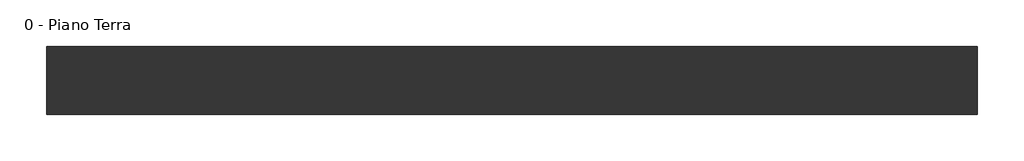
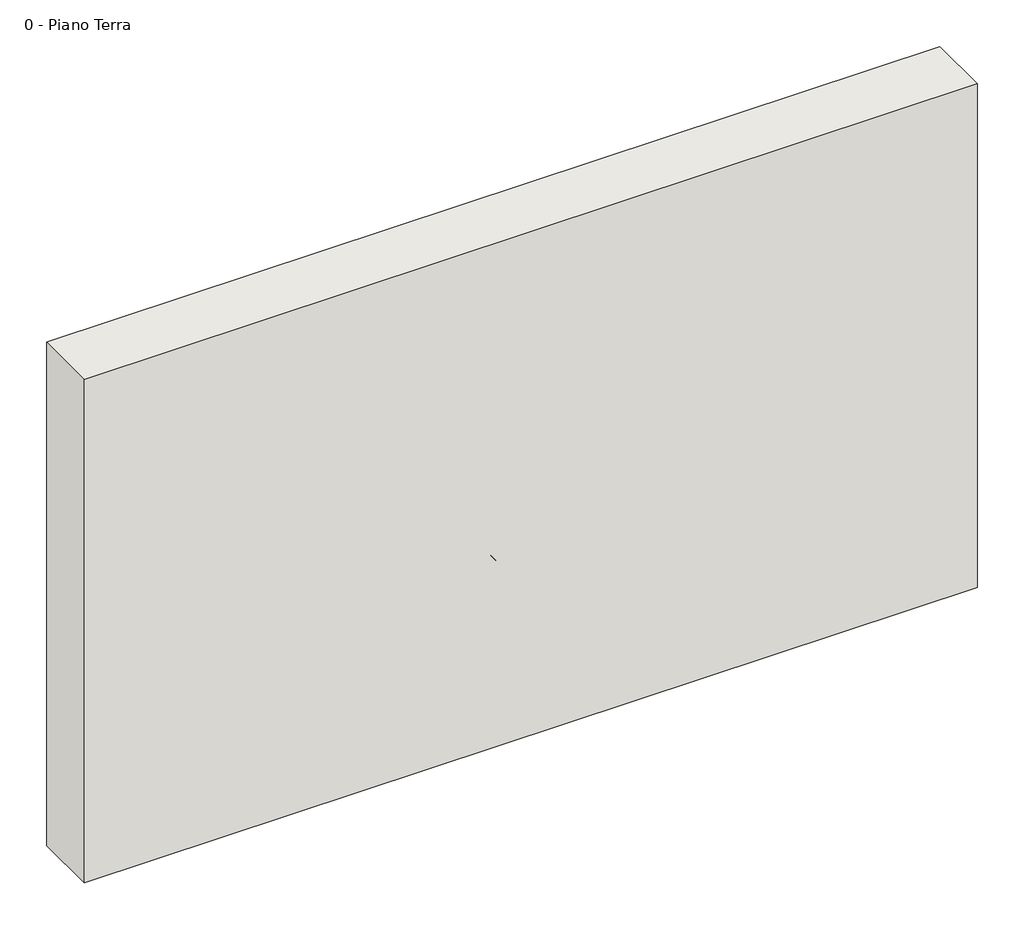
# One storey: 11 proxies, 1 wall.
"""IFC4 building model written with IfcOpenShell, lengths in millimetres."""

from ifc_helpers import new_model, si_unit, origin, origin_with_axes, place, context, project, spatial, polyline, outline, extrude, transform, mapped, element, save
from components import tap_tipo_1_469233f4, tip_tipo_1_c59b7fa3, tipo_1_560bc752, tipo_1_2ed1a620, tipo_1_5fd8f887, tipo_1_0b2f622d, tipo_1_40fdfaa1, tipo_1_f2337e46, tipo_1_4cdb7944, tipo_1_c14ef344, tipo_1_62a81992

model = new_model("IFC4")

# Units and contexts
model_context = context("Model", 3, world=origin())
ifc_project = project(units=[si_unit("LENGTHUNIT", "METRE", prefix="MILLI")], contexts=[model_context])

# Site, building, storey
site = spatial("IfcSite", under=ifc_project)
building = spatial("IfcBuilding", under=site)
storey = spatial("IfcBuildingStorey", under=building, Name="0 - Piano Terra", Elevation=0.0)

# Proxies
placement = place(None, origin())
tap_tipo_1_shape = tap_tipo_1_469233f4(model_context)
element("IfcBuildingElementProxy", 1, Name="TAP : Tipo 1", ObjectType="TAP : Tipo 1", at=placement, inside=storey, context=model_context, shape_type="MappedRepresentation", body=[
    mapped(tap_tipo_1_shape, transform((-11046.5929134, 273.322743, 430.9411082), x_axis=(1.0, 0.0, 0.0), y_axis=(0.0, 1.0, 0.0), z_axis=(0.0, 0.0, 1.0))),
])
tip_tipo_1_shape = tip_tipo_1_c59b7fa3(model_context)
element("IfcBuildingElementProxy", 2, Name="TIP : Tipo 1", ObjectType="TIP : Tipo 1", at=placement, inside=storey, context=model_context, shape_type="MappedRepresentation", body=[
    mapped(tip_tipo_1_shape, transform((-11038.5385658, 273.322743, 200.2970967), x_axis=(1.0, 0.0, 0.0), y_axis=(0.0, 1.0, 0.0), z_axis=(0.0, 0.0, 1.0))),
])
tipo_1_shape = tipo_1_560bc752(model_context)
element("IfcBuildingElementProxy", 3, Name="Zeus 504E : Tipo 1", ObjectType="Zeus 504E : Tipo 1", at=placement, inside=storey, context=model_context, shape_type="MappedRepresentation", body=[
    mapped(tipo_1_shape, transform((-10168.5385658, 273.322743, 214.3308926), x_axis=(1.0, 0.0, 0.0), y_axis=(0.0, 1.0, 0.0), z_axis=(0.0, 0.0, 1.0))),
])
tipo_1_2_shape = tipo_1_2ed1a620(model_context)
element("IfcBuildingElementProxy", 4, Name="Zeus 503E : Tipo 1", ObjectType="Zeus 503E : Tipo 1", at=placement, inside=storey, context=model_context, shape_type="MappedRepresentation", body=[
    mapped(tipo_1_2_shape, transform((-9828.5385658, 273.322743, 215.8270676), x_axis=(1.0, 0.0, 0.0), y_axis=(0.0, 1.0, 0.0), z_axis=(0.0, 0.0, 1.0))),
])
tipo_1_3_shape = tipo_1_5fd8f887(model_context)
element("IfcBuildingElementProxy", 5, Name="Zeus 503N : Tipo 1", ObjectType="Zeus 503N : Tipo 1", at=placement, inside=storey, context=model_context, shape_type="MappedRepresentation", body=[
    mapped(tipo_1_3_shape, transform((-9508.5385658, 273.322743, 216.39303), x_axis=(1.0, 0.0, 0.0), y_axis=(0.0, 1.0, 0.0), z_axis=(0.0, 0.0, 1.0))),
])
tipo_1_4_shape = tipo_1_0b2f622d(model_context)
element("IfcBuildingElementProxy", 6, Name="Ercole lineare orizzontale : Tipo 1", ObjectType="Ercole lineare orizzontale : Tipo 1", at=placement, inside=storey, context=model_context, shape_type="MappedRepresentation", body=[
    mapped(tipo_1_4_shape, transform((-13228.5385658, 273.322743, 270.2970967), x_axis=(1.0, 0.0, 0.0), y_axis=(0.0, 1.0, 0.0), z_axis=(0.0, 0.0, 1.0))),
])
tipo_1_5_shape = tipo_1_40fdfaa1(model_context)
element("IfcBuildingElementProxy", 7, Name="Ercole lineare verticale : Tipo 1", ObjectType="Ercole lineare verticale : Tipo 1", at=placement, inside=storey, context=model_context, shape_type="MappedRepresentation", body=[
    mapped(tipo_1_5_shape, transform((-12915.3191765, 273.322743, 270.2970967), x_axis=(1.0, 0.0, 0.0), y_axis=(0.0, 1.0, 0.0), z_axis=(0.0, 0.0, 1.0))),
])
tipo_1_6_shape = tipo_1_f2337e46(model_context)
element("IfcBuildingElementProxy", 8, Name="Ercole ANGOLAREorizzontale : Tipo 1", ObjectType="Ercole ANGOLAREorizzontale : Tipo 1", at=placement, inside=storey, context=model_context, shape_type="MappedRepresentation", body=[
    mapped(tipo_1_6_shape, transform((-12228.5385658, 273.322743, 270.2970967), x_axis=(1.0, 0.0, 0.0), y_axis=(0.0, 1.0, 0.0), z_axis=(0.0, 0.0, 1.0))),
])
tipo_1_7_shape = tipo_1_4cdb7944(model_context)
element("IfcBuildingElementProxy", 9, Name="Ercole ANGOLAREorizzontale : Tipo 1", ObjectType="Ercole ANGOLAREorizzontale : Tipo 1", at=placement, inside=storey, context=model_context, shape_type="MappedRepresentation", body=[
    mapped(tipo_1_7_shape, transform((-11303.6613233, 273.322743, 270.2970967), x_axis=(-1.0, 0.0, 0.0), y_axis=(0.0, -1.0, 0.0), z_axis=(0.0, 0.0, 1.0))),
])
tipo_1_8_shape = tipo_1_c14ef344(model_context)
element("IfcBuildingElementProxy", 10, Name="Ercole ANGOLARE verticale : Tipo 1", ObjectType="Ercole ANGOLARE verticale : Tipo 1", at=placement, inside=storey, context=model_context, shape_type="MappedRepresentation", body=[
    mapped(tipo_1_8_shape, transform((-11921.4209502, 273.322743, 270.2970967), x_axis=(1.0, 0.0, 0.0), y_axis=(0.0, 1.0, 0.0), z_axis=(0.0, 0.0, 1.0))),
])
tipo_1_9_shape = tipo_1_62a81992(model_context)
element("IfcBuildingElementProxy", 11, Name="Ercole ANGOLARE verticale rovescio : Tipo 1", ObjectType="Ercole ANGOLARE verticale rovescio : Tipo 1", at=placement, inside=storey, context=model_context, shape_type="MappedRepresentation", body=[
    mapped(tipo_1_9_shape, transform((-11921.4209502, 273.322743, 0.0), x_axis=(1.0, 0.0, 0.0), y_axis=(0.0, 1.0, 0.0), z_axis=(0.0, 0.0, 1.0))),
])

# Wall
element("IfcWall", 12, ObjectType="Tamponamento Esterno - 38 cm", at=placement, inside=storey, context=model_context, shape_type="SweptSolid", body=[
    extrude(outline(polyline([(-8103.5385658, 83.322743), (-13303.5385658, 83.322743), (-13303.5385658, 463.322743), (-8103.5385658, 463.322743), (-8103.5385658, 83.322743)])), origin_with_axes(), (0.0, 0.0, 1.0), 3100.0),
])

save(model, "model.ifc")
